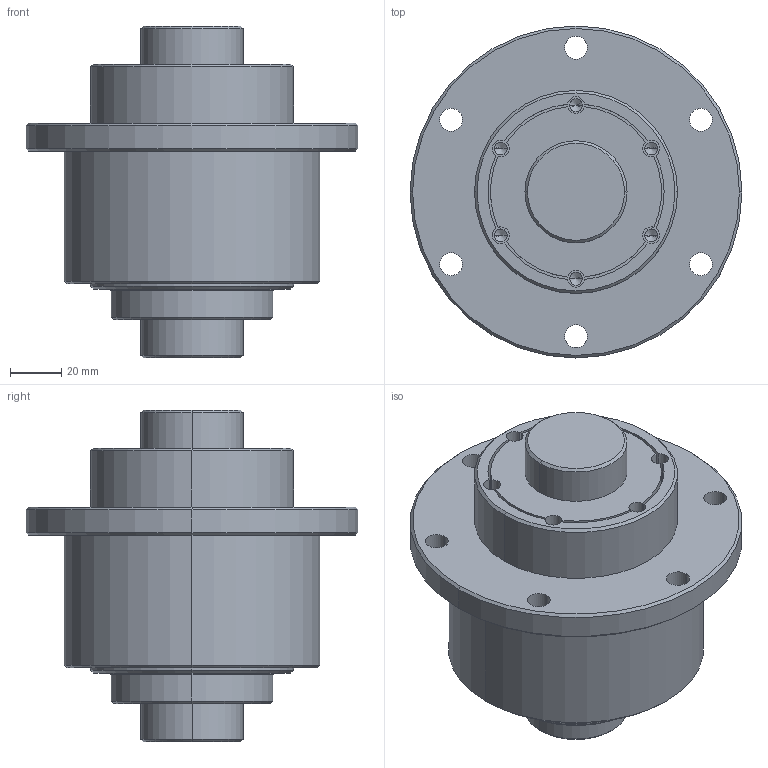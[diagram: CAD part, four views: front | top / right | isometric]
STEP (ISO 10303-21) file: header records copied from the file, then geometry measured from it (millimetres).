
FILE_DESCRIPTION (( 'STEP AP203' ), '1' );
FILE_NAME ('RLBF40.STEP', '2014-11-13T09:04:36', ( '' ), ( '' ), 'SwSTEP 2.0', 'SolidWorks 2014', '' );
FILE_SCHEMA (( 'CONFIG_CONTROL_DESIGN' ));
Length unit declared in the file: millimetre
Products named in the file (1): RLBF40
Bounding box: 130 x 130 x 130 mm (x, y, z)
Volume: 741614.2 mm3; surface area: 97326.7 mm2
Topology: 3 solids, 3 shells, 112 faces, 272 edges, 166 vertices
Faces by surface type: cylinder 72, cone 28, plane 12
Entity records: 3353 total; most frequent: DIRECTION 646, CARTESIAN_POINT 539, ORIENTED_EDGE 520, AXIS2_PLACEMENT_3D 273, EDGE_CURVE 260, VERTEX_POINT 166, CIRCLE 160, EDGE_LOOP 140
